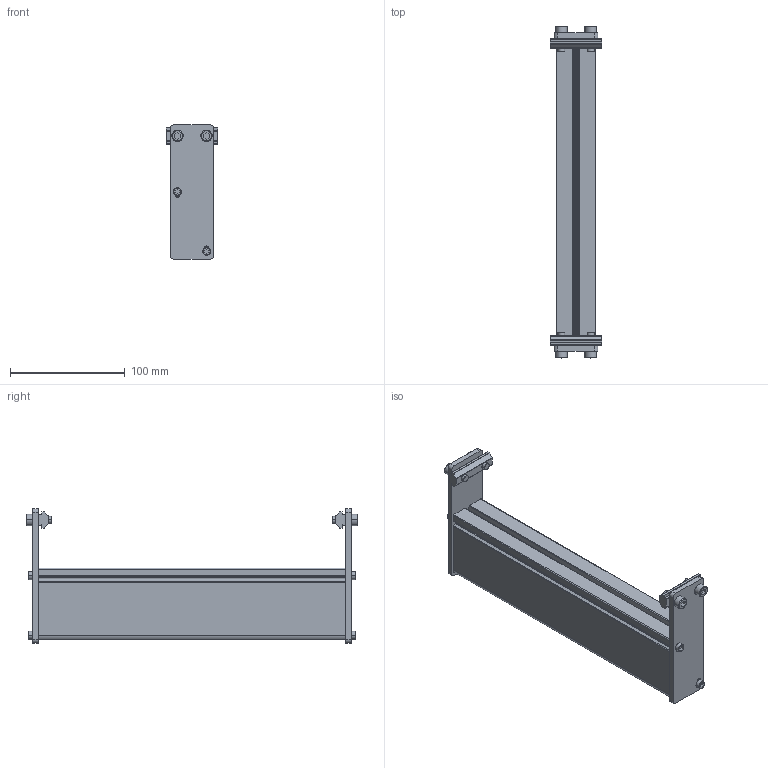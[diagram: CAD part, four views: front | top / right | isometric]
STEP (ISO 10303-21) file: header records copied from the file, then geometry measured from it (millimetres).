
FILE_DESCRIPTION((''),'2;1');
FILE_NAME('350974-10_ASM','2023-03-22T',('jenni.wallner'),(''),'PRO/ENGINEER BY PARAMETRIC TECHNOLOGY CORPORATION, 2012420','PRO/ENGINEER BY PARAMETRIC TECHNOLOGY CORPORATION, 2012420','');
FILE_SCHEMA(('CONFIG_CONTROL_DESIGN'));
Length unit declared in the file: inch
Products named in the file (6): 350979-01055; 350978; 200830M; 920616M; 920416M; 350974-10_ASM
Assembly tree (13 placements, depth 2):
  350974-10_ASM
    350979-01055
    350978  x2
    200830M  x2
    920616M  x4
    920416M  x4
Bounding box: 44.45 x 289.06 x 116.98 mm (x, y, z)
Volume: 262379 mm3; surface area: 166707.2 mm2
Topology: 13 solids, 17 shells, 342 faces, 868 edges, 568 vertices
Faces by surface type: plane 168, cylinder 142, cone 32
Entity records: 5992 total; most frequent: DIRECTION 1074, CARTESIAN_POINT 1021, ORIENTED_EDGE 972, EDGE_CURVE 490, AXIS2_PLACEMENT_3D 385, VERTEX_POINT 324, VECTOR 304, LINE 304
